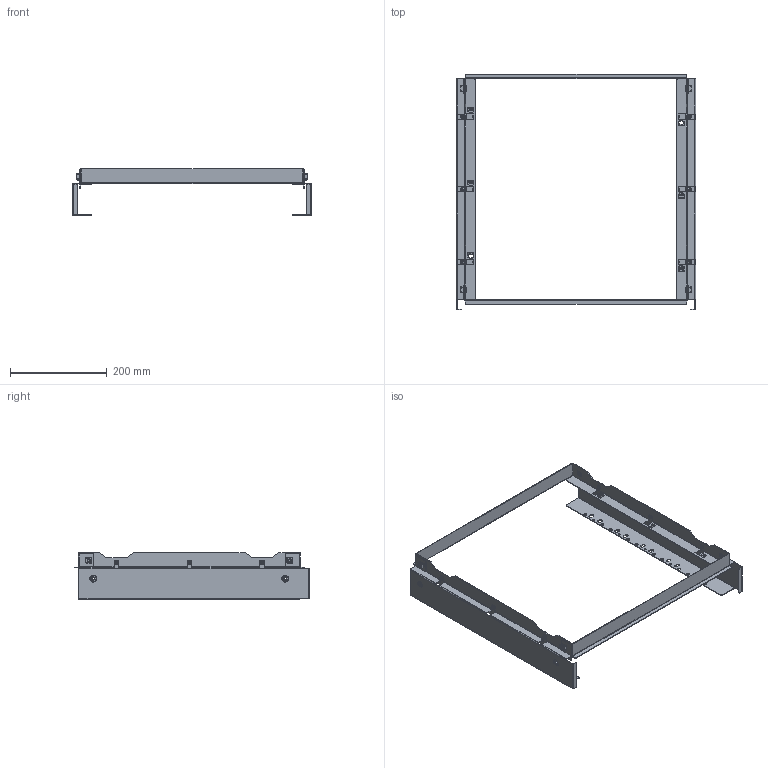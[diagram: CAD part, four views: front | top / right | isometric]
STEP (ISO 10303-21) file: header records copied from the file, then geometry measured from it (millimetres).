
FILE_DESCRIPTION (( 'STEP AP203' ), '1' );
FILE_NAME ('R5STMF55.STEP', '2022-04-13T09:37:26', ( '' ), ( '' ), 'SwSTEP 2.0', 'SolidWorks 2020', '' );
FILE_SCHEMA (( 'CONFIG_CONTROL_DESIGN' ));
Length unit declared in the file: millimetre
Products named in the file (11): RB.2135.00.01.0_-01; RB.2135.00.00.0 捘_-01; RB.2134.00.00.0_-01; M4x8 DIN 965 PH cl.4,8 Zinc_straight; RB.2136.00.00.0_-02; M6x12 DIN 965 PH cl.4,8 Zinc_stright; R5STMF55; RB.2134.00.00.0_-09; M4 MGR-MKO-0420_straight; M6 DIN 6923 cl.8,0 Zinc_straight; M6 A3400002 Zinc_straight
Assembly tree (28 placements, depth 3):
  R5STMF55
    RB.2134.00.00.0_-01
    RB.2135.00.00.0 捘_-01  x2
      RB.2135.00.01.0_-01
      M4 MGR-MKO-0420_straight
    RB.2136.00.00.0_-02  x2
    RB.2134.00.00.0_-09
    M6 A3400002 Zinc_straight  x4
    M6x12 DIN 965 PH cl.4,8 Zinc_stright  x4
    M4x8 DIN 965 PH cl.4,8 Zinc_straight  x6
    M6 DIN 6923 cl.8,0 Zinc_straight  x4
Bounding box: 493.6 x 486.4 x 96.67 mm (x, y, z)
Volume: 309516.7 mm3; surface area: 428357.6 mm2
Topology: 30 solids, 30 shells, 1796 faces, 4694 edges, 2930 vertices
Faces by surface type: plane 912, cylinder 628, cone 188, bspline 40, torus 28
Entity records: 27205 total; most frequent: CARTESIAN_POINT 5019, DIRECTION 4346, ORIENTED_EDGE 4260, EDGE_CURVE 2130, AXIS2_PLACEMENT_3D 1509, VERTEX_POINT 1336, VECTOR 1328, LINE 1328
